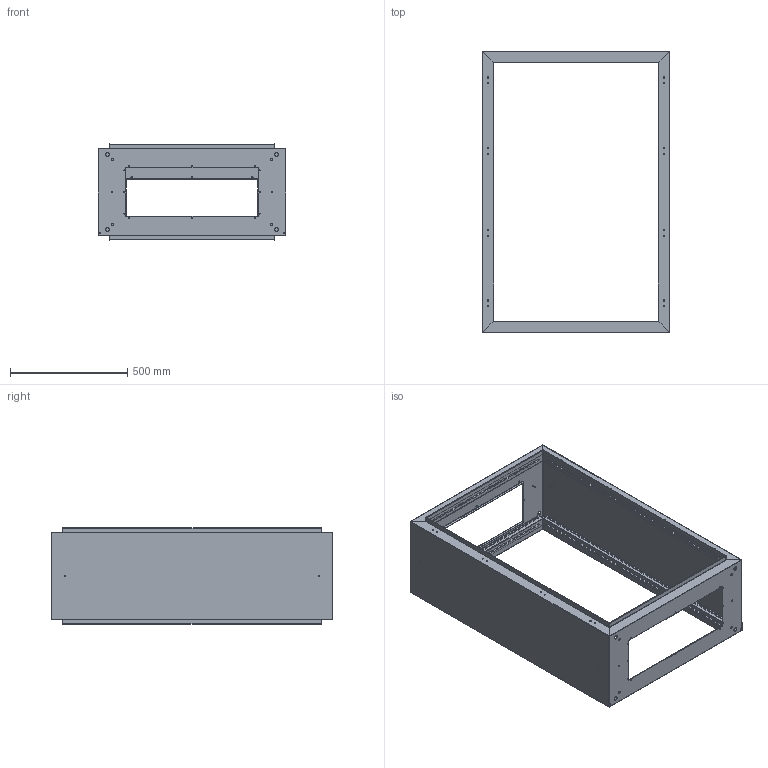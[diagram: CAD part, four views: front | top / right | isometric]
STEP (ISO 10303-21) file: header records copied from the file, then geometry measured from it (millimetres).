
FILE_DESCRIPTION (( 'STEP AP203' ), '1' );
FILE_NAME ('800x1200x400.STEP', '2021-11-11T16:44:19', ( '' ), ( '' ), 'SwSTEP 2.0', 'SolidWorks 2019', '' );
FILE_SCHEMA (( 'CONFIG_CONTROL_DESIGN' ));
Length unit declared in the file: millimetre
Products named in the file (4): 800x1200x400; Yan Kapak 1,5mm_monoblok_tekkapakrevize_PP 16.1001 - 1200Yx400D YAN; Üst Kapak 1,5mm_monoblok_tekkapakrevize_PP 16.1010 800Gx400D šST; Alt Kapak 1,5mm_monoblok_tekkapakrevize_PP 16.1019 800Gx400D ALT
Assembly tree (4 placements, depth 2):
  800x1200x400
    Alt Kapak 1,5mm_monoblok_tekkapakrevize_PP 16.1019 800Gx400D ALT
    Üst Kapak 1,5mm_monoblok_tekkapakrevize_PP 16.1010 800Gx400D šST
    Yan Kapak 1,5mm_monoblok_tekkapakrevize_PP 16.1001 - 1200Yx400D YAN  x2
Bounding box: 800 x 1200 x 411.95 mm (x, y, z)
Volume: 3432830.8 mm3; surface area: 4645179.3 mm2
Topology: 4 solids, 4 shells, 3884 faces, 11364 edges, 7496 vertices
Faces by surface type: plane 2508, cylinder 1360, bspline 16
Entity records: 94826 total; most frequent: CARTESIAN_POINT 16559, ORIENTED_EDGE 16048, DIRECTION 15374, EDGE_CURVE 8024, VECTOR 6112, LINE 6112, VERTEX_POINT 5288, AXIS2_PLACEMENT_3D 4631
